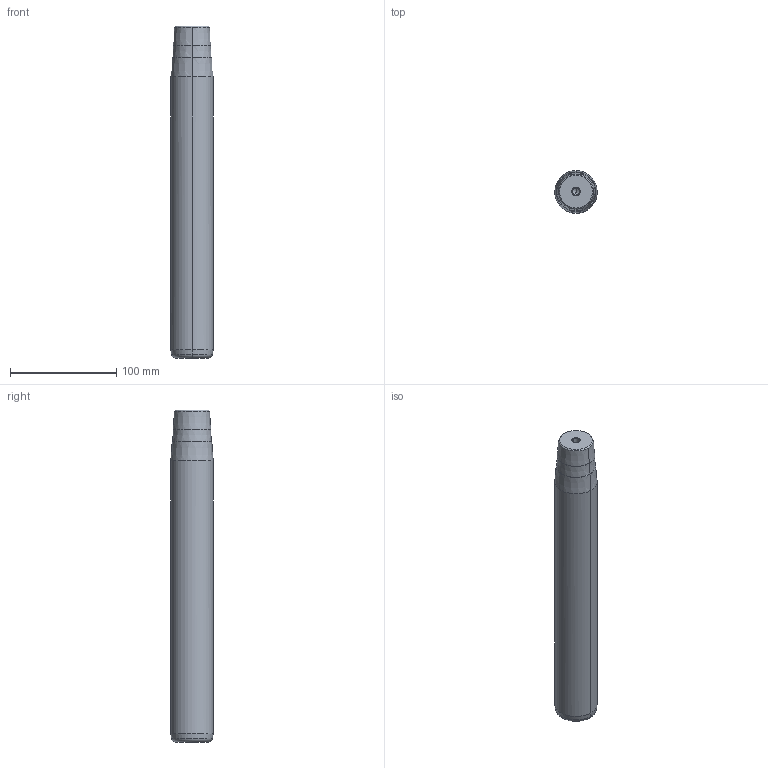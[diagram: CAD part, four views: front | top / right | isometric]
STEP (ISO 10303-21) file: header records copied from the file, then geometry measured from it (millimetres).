
FILE_DESCRIPTION(('CATIA V5 STEP Exchange'),'2;1');
FILE_NAME('C:\Users\Utente\Desktop\IO LAVORO\3D X SITO CF\X SITO\722\722-40x280x313.stp','2021-01-08T15:08:08+00:00',('none'),('none'),'CATIA Version 5 Release 20 GA (IN-10)','CATIA V5 STEP AP203','none');
FILE_SCHEMA(('CONFIG_CONTROL_DESIGN'));
Length unit declared in the file: millimetre
Products named in the file (1): 722-40x280x313
Bounding box: 40 x 40 x 313 mm (x, y, z)
Volume: 379966.9 mm3; surface area: 41669.6 mm2
Topology: 1 solids, 1 shells, 32 faces, 98 edges, 66 vertices
Faces by surface type: cone 22, cylinder 6, plane 2, torus 2
Entity records: 1166 total; most frequent: CARTESIAN_POINT 279, ORIENTED_EDGE 188, DIRECTION 148, EDGE_CURVE 94, AXIS2_PLACEMENT_3D 89, VERTEX_POINT 66, CIRCLE 56, EDGE_LOOP 34
